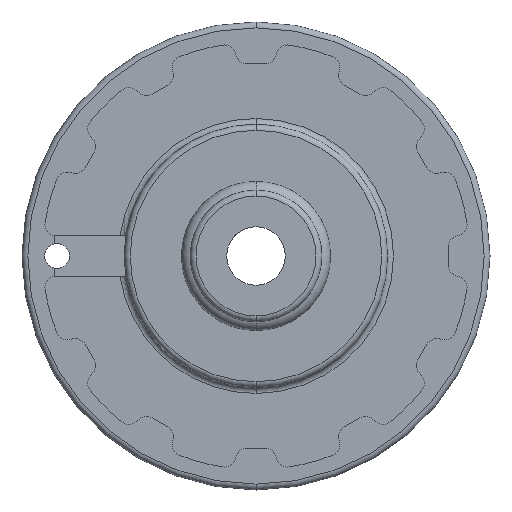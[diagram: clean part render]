
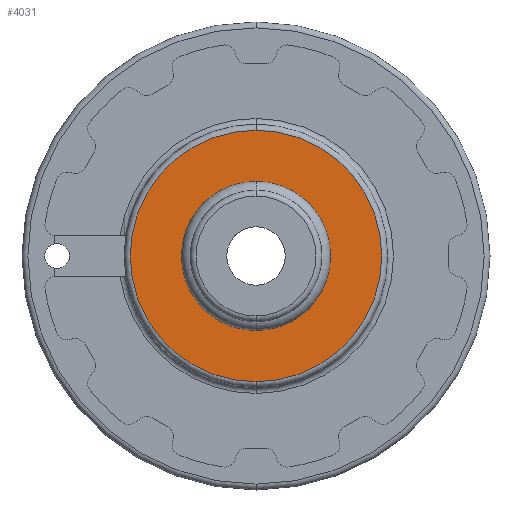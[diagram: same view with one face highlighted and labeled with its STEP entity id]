
A CAD part, front view. The second image highlights one B-rep face of the part: STEP entity #4031.
In plain terms, the highlighted planar face has unit normal (0, -1, 0).
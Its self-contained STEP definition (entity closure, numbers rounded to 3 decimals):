
#34 = DIRECTION ( 'NONE',  ( 0., 0., -1. ) ) ;
#121 = CIRCLE ( 'NONE', #507, 43. ) ;
#139 = ORIENTED_EDGE ( 'NONE', *, *, #2434, .F. ) ;
#248 = VERTEX_POINT ( 'NONE', #2758 ) ;
#477 = VERTEX_POINT ( 'NONE', #4323 ) ;
#495 = ORIENTED_EDGE ( 'NONE', *, *, #1459, .T. ) ;
#507 = AXIS2_PLACEMENT_3D ( 'NONE', #3342, #2902, #1088 ) ;
#588 = EDGE_LOOP ( 'NONE', ( #495, #2844 ) ) ;
#651 = AXIS2_PLACEMENT_3D ( 'NONE', #3872, #982, #3897 ) ;
#793 = DIRECTION ( 'NONE',  ( 0., 0., -1. ) ) ;
#794 = CIRCLE ( 'NONE', #651, 25.5 ) ;
#923 = CARTESIAN_POINT ( 'NONE',  ( 0., -22., -43. ) ) ;
#940 = EDGE_CURVE ( 'NONE', #4150, #4688, #121, .T. ) ;
#982 = DIRECTION ( 'NONE',  ( 0., -1., 0. ) ) ;
#1088 = DIRECTION ( 'NONE',  ( 0., 0., -1. ) ) ;
#1196 = CIRCLE ( 'NONE', #2268, 25.5 ) ;
#1319 = EDGE_LOOP ( 'NONE', ( #139, #4416 ) ) ;
#1389 = DIRECTION ( 'NONE',  ( 0., -1., 0. ) ) ;
#1459 = EDGE_CURVE ( 'NONE', #4688, #4150, #4556, .T. ) ;
#1519 = CARTESIAN_POINT ( 'NONE',  ( 0., -22., 0. ) ) ;
#2268 = AXIS2_PLACEMENT_3D ( 'NONE', #1519, #4067, #793 ) ;
#2434 = EDGE_CURVE ( 'NONE', #477, #248, #1196, .T. ) ;
#2549 = CARTESIAN_POINT ( 'NONE',  ( 0., -22., 0. ) ) ;
#2758 = CARTESIAN_POINT ( 'NONE',  ( 0., -22., -25.5 ) ) ;
#2844 = ORIENTED_EDGE ( 'NONE', *, *, #940, .T. ) ;
#2902 = DIRECTION ( 'NONE',  ( 0., -1., 0. ) ) ;
#3215 = CARTESIAN_POINT ( 'NONE',  ( 0., -22., 0. ) ) ;
#3313 = FACE_BOUND ( 'NONE', #1319, .T. ) ;
#3319 = AXIS2_PLACEMENT_3D ( 'NONE', #2549, #3604, #34 ) ;
#3342 = CARTESIAN_POINT ( 'NONE',  ( 0., -22., 0. ) ) ;
#3604 = DIRECTION ( 'NONE',  ( 0., -1., 0. ) ) ;
#3796 = AXIS2_PLACEMENT_3D ( 'NONE', #3215, #1389, #4662 ) ;
#3872 = CARTESIAN_POINT ( 'NONE',  ( 0., -22., 0. ) ) ;
#3897 = DIRECTION ( 'NONE',  ( 0., 0., -1. ) ) ;
#4022 = EDGE_CURVE ( 'NONE', #248, #477, #794, .T. ) ;
#4031 = ADVANCED_FACE ( 'NONE', ( #4676, #3313 ), #4316, .T. ) ;
#4067 = DIRECTION ( 'NONE',  ( 0., -1., 0. ) ) ;
#4098 = CARTESIAN_POINT ( 'NONE',  ( 0., -22., 43. ) ) ;
#4150 = VERTEX_POINT ( 'NONE', #4098 ) ;
#4316 = PLANE ( 'NONE',  #3319 ) ;
#4323 = CARTESIAN_POINT ( 'NONE',  ( 0., -22., 25.5 ) ) ;
#4416 = ORIENTED_EDGE ( 'NONE', *, *, #4022, .F. ) ;
#4556 = CIRCLE ( 'NONE', #3796, 43. ) ;
#4662 = DIRECTION ( 'NONE',  ( 0., 0., -1. ) ) ;
#4676 = FACE_OUTER_BOUND ( 'NONE', #588, .T. ) ;
#4688 = VERTEX_POINT ( 'NONE', #923 ) ;
